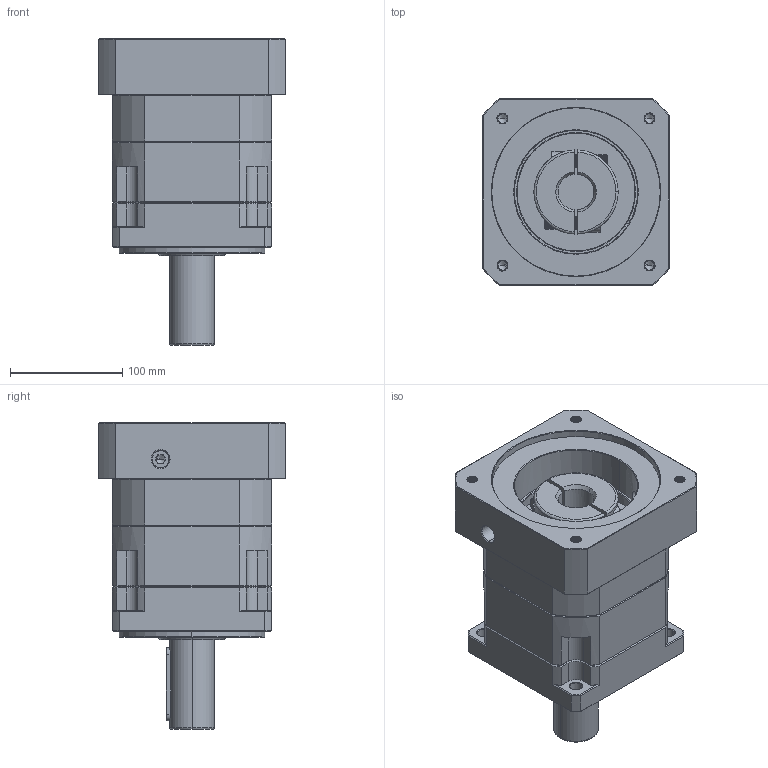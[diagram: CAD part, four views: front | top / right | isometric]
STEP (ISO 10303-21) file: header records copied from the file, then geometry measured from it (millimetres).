
FILE_DESCRIPTION (( 'STEP AP214' ), '1' );
FILE_NAME ('ZB142A-D40-L1-P2-32-150-185-M10.step', '2023-09-01T11:41:54', ( '' ), ( '' ), 'SwSTEP 2.0', 'SolidWorks 2016', '' );
FILE_SCHEMA (( 'AUTOMOTIVE_DESIGN' ));
Length unit declared in the file: millimetre
Products named in the file (1): ZB142A-D40-L1-P2-32-150-185-M10
Bounding box: 166 x 166 x 273.2 mm (x, y, z)
Volume: 3556339.8 mm3; surface area: 304986.7 mm2
Topology: 6 solids, 6 shells, 2320 faces, 6218 edges, 4002 vertices
Faces by surface type: plane 1103, cylinder 432, bspline 411, cone 352, torus 22
Entity records: 129452 total; most frequent: CARTESIAN_POINT 49233, ORIENTED_EDGE 12376, DIRECTION 9806, EDGE_CURVE 6188, VERTEX_POINT 4002, VECTOR 3906, LINE 3906, AXIS2_PLACEMENT_3D 2950
